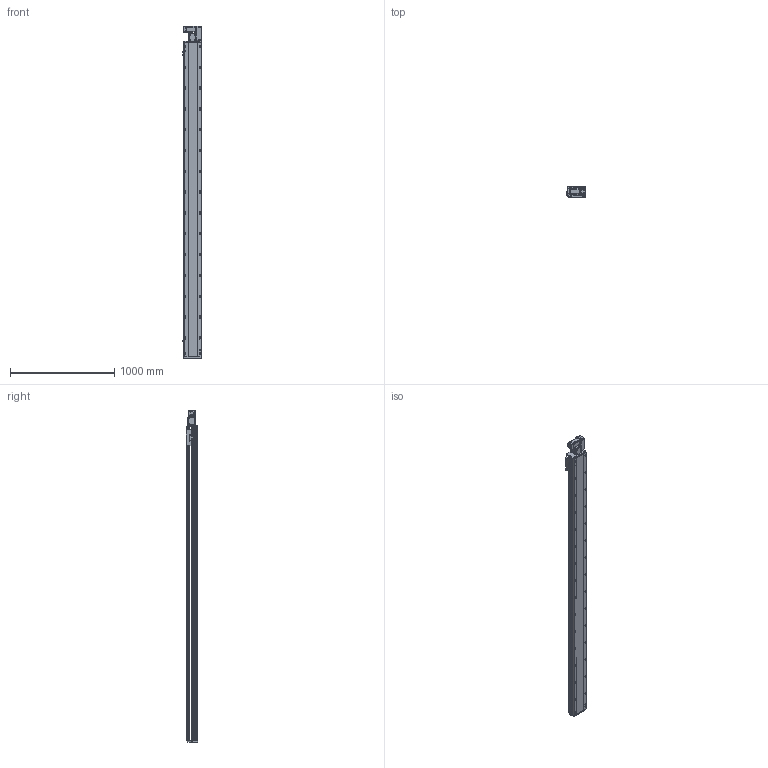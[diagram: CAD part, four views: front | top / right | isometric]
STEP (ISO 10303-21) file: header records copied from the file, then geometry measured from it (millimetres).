
FILE_DESCRIPTION (( 'STEP AP214' ), '1' );
FILE_NAME ('RTB17S-XX-2800-R-M40-C4.STEP', '2025-12-11T07:53:28', ( '' ), ( '' ), 'SwSTEP 2.0', 'SolidWorks 2018', '' );
FILE_SCHEMA (( 'AUTOMOTIVE_DESIGN' ));
Length unit declared in the file: millimetre
Products named in the file (14): RTH13-BL-012覜茼え俋离^RTB17S-XX-XX-R-M40-C4; RTB14-L-008-M20--萇儂啣^RTB17S-R-々湍釱蚾饜-400W_RTB17S-XX-XX-R-M40-C4; RTB14-L-017P^RTB17S-R-々湍釱蚾饜-400W_RTB17S-XX-XX-R-M40-C4; OMRON EE-SX672 传感器^RTB17S-XX-XX-R-M40-C4; RTB17-R-011菁釱^RTB17S-XX-XX-R-M40-C4; RTB17S-XX-2800-R-M40-C4; RTB17S-L-007奻裔^RTB17S-XX-XX-R-M40-C4; RTB17S-R-々湍釱蚾饜-400W^RTB17S-XX-XX-R-M40-C4; 400W侜督萇儂^RTB17S-XX-XX-R-M40-C4; RTB17S-L-014-T20--々湍釱^RTB17S-R-々湍釱蚾饜-400W_RTB17S-XX-XX-R-M40-C4; RTB14-L-005P--轴承塑胶压盖^RTB17S-R-皮带座装配-400W_RTB17S-XX-XX-R-M40-C4; RTB17S-L-004佪裝蹟譫蟀諉釱^RTB17S-XX-XX-R-M40-C4; RTB17S-L-001耜醱啣^RTB17S-XX-XX-R-M40-C4; RTB14-L-018P^RTB17S-R-々湍釱蚾饜-400W_RTB17S-XX-XX-R-M40-C4
Assembly tree (16 placements, depth 3):
  RTB17S-XX-2800-R-M40-C4
    RTB17-R-011菁釱^RTB17S-XX-XX-R-M40-C4
    RTB17S-L-007奻裔^RTB17S-XX-XX-R-M40-C4
    OMRON EE-SX672 传感器^RTB17S-XX-XX-R-M40-C4  x3
    RTB17S-L-001耜醱啣^RTB17S-XX-XX-R-M40-C4
    400W侜督萇儂^RTB17S-XX-XX-R-M40-C4
    RTB17S-L-004佪裝蹟譫蟀諉釱^RTB17S-XX-XX-R-M40-C4
    RTH13-BL-012覜茼え俋离^RTB17S-XX-XX-R-M40-C4
    RTB17S-R-々湍釱蚾饜-400W^RTB17S-XX-XX-R-M40-C4
      RTB17S-L-014-T20--々湍釱^RTB17S-R-々湍釱蚾饜-400W_RTB17S-XX-XX-R-M40-C4
      RTB14-L-005P--轴承塑胶压盖^RTB17S-R-皮带座装配-400W_RTB17S-XX-XX-R-M40-C4
      RTB14-L-008-M20--萇儂啣^RTB17S-R-々湍釱蚾饜-400W_RTB17S-XX-XX-R-M40-C4
      RTB14-L-017P^RTB17S-R-々湍釱蚾饜-400W_RTB17S-XX-XX-R-M40-C4  x2
      RTB14-L-018P^RTB17S-R-々湍釱蚾饜-400W_RTB17S-XX-XX-R-M40-C4
Bounding box: 183.5 x 108 x 3191 mm (x, y, z)
Volume: 26645448.9 mm3; surface area: 3054324.8 mm2
Topology: 15 solids, 15 shells, 2349 faces, 6573 edges, 4293 vertices
Faces by surface type: plane 1086, cylinder 815, bspline 301, cone 139, torus 8
Entity records: 69545 total; most frequent: CARTESIAN_POINT 19778, ORIENTED_EDGE 9990, DIRECTION 9206, EDGE_CURVE 4995, VERTEX_POINT 3281, AXIS2_PLACEMENT_3D 3211, VECTOR 2784, LINE 2784
